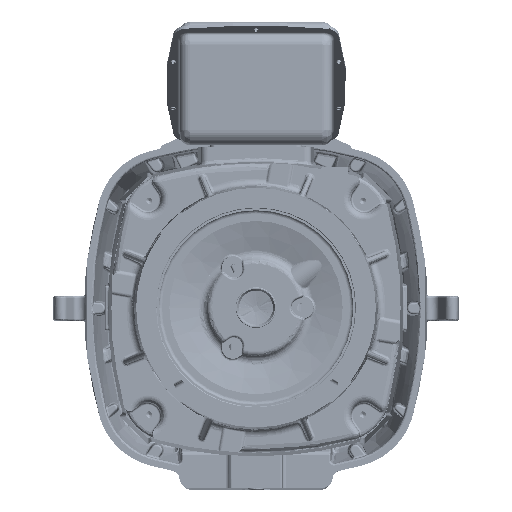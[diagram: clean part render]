
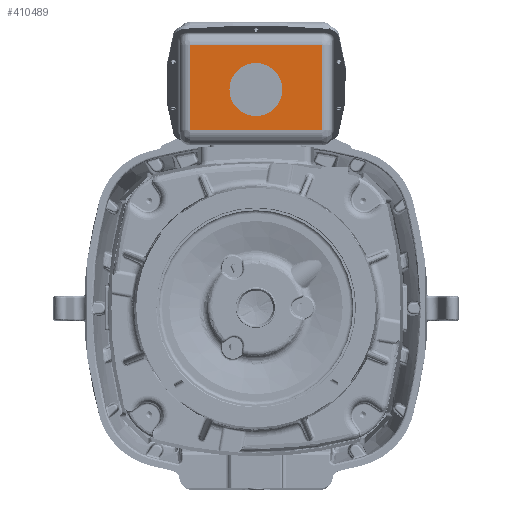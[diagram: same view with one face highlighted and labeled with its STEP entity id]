
A CAD part, top view. The second image highlights one B-rep face of the part: STEP entity #410489.
In plain terms, the highlighted planar face has unit normal (0, 0, 1) as drawn and (0, -1, 0) by its records, which use the part's own axes.
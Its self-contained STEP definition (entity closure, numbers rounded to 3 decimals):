
#407576=CARTESIAN_POINT('',(-4.495,-5.125,6.785));
#408306=DIRECTION('',(-1.,0.,0.));
#408307=VECTOR('',#408306,8.99);
#408308=CARTESIAN_POINT('',(4.495,-5.125,6.785));
#408309=LINE('',#408308,#408307);
#408310=DIRECTION('',(0.,0.,-1.));
#408311=VECTOR('',#408310,5.785);
#408312=CARTESIAN_POINT('',(4.495,-5.125,6.785));
#408313=LINE('',#408312,#408311);
#408314=DIRECTION('',(0.,0.,1.));
#408315=VECTOR('',#408314,5.785);
#408316=CARTESIAN_POINT('',(-4.495,-5.125,1.));
#408317=LINE('',#408316,#408315);
#408318=CARTESIAN_POINT('',(-0.005,-5.125,3.75));
#408319=DIRECTION('',(0.,-1.,0.));
#408320=DIRECTION('',(-1.,0.,0.));
#408321=AXIS2_PLACEMENT_3D('',#408318,#408319,#408320);
#408323=CARTESIAN_POINT('',(-0.005,-5.125,3.75));
#408324=DIRECTION('',(0.,-1.,0.));
#408325=DIRECTION('',(1.,0.,0.));
#408326=AXIS2_PLACEMENT_3D('',#408323,#408324,#408325);
#408528=DIRECTION('',(1.,0.,0.));
#408529=VECTOR('',#408528,8.99);
#408530=CARTESIAN_POINT('',(-4.495,-5.125,1.));
#408531=LINE('',#408530,#408529);
#408980=CARTESIAN_POINT('',(4.495,-5.125,1.));
#408982=VERTEX_POINT('',#408980);
#408989=CARTESIAN_POINT('',(-4.495,-5.125,1.));
#408991=VERTEX_POINT('',#408989);
#409002=VERTEX_POINT('',#407576);
#409003=CARTESIAN_POINT('',(4.495,-5.125,6.785));
#409004=VERTEX_POINT('',#409003);
#409152=CARTESIAN_POINT('',(-1.802,-5.125,3.75));
#409153=CARTESIAN_POINT('',(1.792,-5.125,3.75));
#409154=VERTEX_POINT('',#409152);
#409155=VERTEX_POINT('',#409153);
#410470=CARTESIAN_POINT('',(-5.185,-5.125,6.962));
#410471=DIRECTION('',(0.,-1.,0.));
#410472=DIRECTION('',(0.,0.,-1.));
#410473=AXIS2_PLACEMENT_3D('',#410470,#410471,#410472);
#410474=PLANE('',#410473);
#410476=ORIENTED_EDGE('',*,*,#410475,.F.);
#410478=ORIENTED_EDGE('',*,*,#410477,.T.);
#410480=ORIENTED_EDGE('',*,*,#410479,.F.);
#410481=ORIENTED_EDGE('',*,*,#409440,.T.);
#410482=EDGE_LOOP('',(#410476,#410478,#410480,#410481));
#410483=FACE_OUTER_BOUND('',#410482,.F.);
#410484=ORIENTED_EDGE('',*,*,#410460,.T.);
#410486=ORIENTED_EDGE('',*,*,#410485,.T.);
#410487=EDGE_LOOP('',(#410484,#410486));
#410488=FACE_BOUND('',#410487,.F.);
#410489=ADVANCED_FACE('',(#410483,#410488),#410474,.T.);
#408322=CIRCLE('',#408321,1.797);
#408327=CIRCLE('',#408326,1.797);
#409440=EDGE_CURVE('',#408991,#409002,#408317,.T.);
#410460=EDGE_CURVE('',#409154,#409155,#408322,.T.);
#410475=EDGE_CURVE('',#409004,#409002,#408309,.T.);
#410477=EDGE_CURVE('',#409004,#408982,#408313,.T.);
#410479=EDGE_CURVE('',#408991,#408982,#408531,.T.);
#410485=EDGE_CURVE('',#409155,#409154,#408327,.T.);
